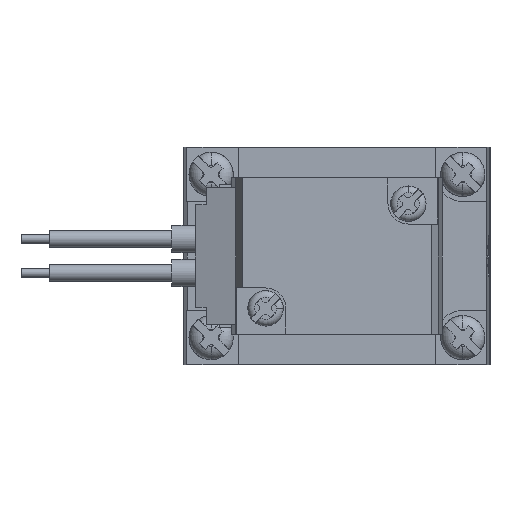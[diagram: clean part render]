
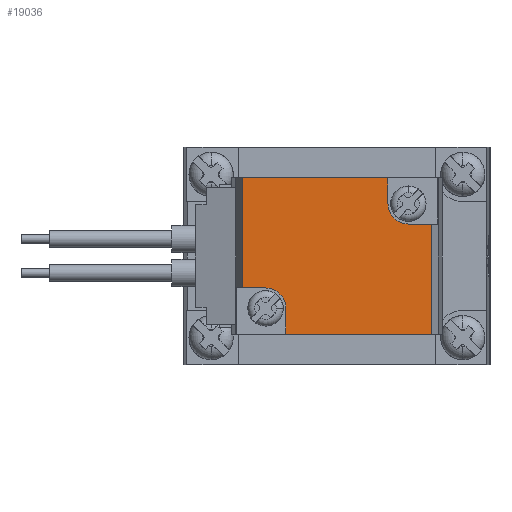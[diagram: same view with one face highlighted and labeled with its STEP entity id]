
A CAD part, left-side view. The second image highlights one B-rep face of the part: STEP entity #19036.
In plain terms, the highlighted planar face has unit normal (-1, 0, 0).
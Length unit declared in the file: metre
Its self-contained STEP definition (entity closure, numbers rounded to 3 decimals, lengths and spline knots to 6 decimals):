
#909 = CARTESIAN_POINT ( 'NONE',  ( -0.1123, 0.015, 0.0115 ) ) ;
#1621 = EDGE_CURVE ( 'NONE', #22632, #14167, #28119, .T. ) ;
#1682 = ORIENTED_EDGE ( 'NONE', *, *, #16102, .T. ) ;
#3002 = LINE ( 'NONE', #17341, #20298 ) ;
#3036 = EDGE_LOOP ( 'NONE', ( #6251, #9263, #23673, #1682, #15383, #20443, #22759, #8796, #22842, #17624 ) ) ;
#3074 = EDGE_CURVE ( 'NONE', #14167, #7952, #13521, .T. ) ;
#4278 = CARTESIAN_POINT ( 'NONE',  ( -0.1123, 0.012, 0.0047 ) ) ;
#4595 = DIRECTION ( 'NONE',  ( 0., -1., 0. ) ) ;
#4835 = DIRECTION ( 'NONE',  ( 1., 0., 0. ) ) ;
#4872 = CARTESIAN_POINT ( 'NONE',  ( -0.1123, 0.015, 0.0096 ) ) ;
#5532 = FACE_OUTER_BOUND ( 'NONE', #3036, .T. ) ;
#6036 = CARTESIAN_POINT ( 'NONE',  ( -0.1123, 0.008598, 0. ) ) ;
#6040 = LINE ( 'NONE', #12709, #6759 ) ;
#6137 = CARTESIAN_POINT ( 'NONE',  ( -0.1123, 0.022499, 0.0047 ) ) ;
#6251 = ORIENTED_EDGE ( 'NONE', *, *, #9624, .T. ) ;
#6292 = AXIS2_PLACEMENT_3D ( 'NONE', #18364, #4835, #20634 ) ;
#6759 = VECTOR ( 'NONE', #28480, 1. ) ;
#7511 = LINE ( 'NONE', #26142, #18091 ) ;
#7632 = VECTOR ( 'NONE', #4595, 1. ) ;
#7952 = VERTEX_POINT ( 'NONE', #14506 ) ;
#8342 = DIRECTION ( 'NONE',  ( 0., 0., 1. ) ) ;
#8408 = CARTESIAN_POINT ( 'NONE',  ( -0.1123, 0.0364, 0.0115 ) ) ;
#8496 = VECTOR ( 'NONE', #18716, 1. ) ;
#8796 = ORIENTED_EDGE ( 'NONE', *, *, #25988, .F. ) ;
#9178 = LINE ( 'NONE', #9733, #8496 ) ;
#9263 = ORIENTED_EDGE ( 'NONE', *, *, #10450, .T. ) ;
#9506 = VERTEX_POINT ( 'NONE', #13204 ) ;
#9624 = EDGE_CURVE ( 'NONE', #15174, #26702, #13623, .T. ) ;
#9733 = CARTESIAN_POINT ( 'NONE',  ( -0.1123, 0.022499, -0.0115 ) ) ;
#10450 = EDGE_CURVE ( 'NONE', #26702, #9506, #19239, .T. ) ;
#10630 = CARTESIAN_POINT ( 'NONE',  ( -0.1123, 0.008598, 0.0047 ) ) ;
#11181 = VECTOR ( 'NONE', #8342, 1. ) ;
#11696 = VECTOR ( 'NONE', #18407, 1. ) ;
#11905 = LINE ( 'NONE', #6036, #11181 ) ;
#11919 = CARTESIAN_POINT ( 'NONE',  ( -0.1123, 0.033, -0.0077 ) ) ;
#12645 = DIRECTION ( 'NONE',  ( 0., 0., -1. ) ) ;
#12709 = CARTESIAN_POINT ( 'NONE',  ( -0.1123, 0.0225, 0.0115 ) ) ;
#12814 = PLANE ( 'NONE',  #16568 ) ;
#13204 = CARTESIAN_POINT ( 'NONE',  ( -0.1123, 0.03, -0.0077 ) ) ;
#13521 = CIRCLE ( 'NONE', #6292, 0.003 ) ;
#13623 = LINE ( 'NONE', #15780, #7632 ) ;
#14167 = VERTEX_POINT ( 'NONE', #4278 ) ;
#14189 = DIRECTION ( 'NONE',  ( 0., -1., 0. ) ) ;
#14506 = CARTESIAN_POINT ( 'NONE',  ( -0.1123, 0.015, 0.0077 ) ) ;
#15085 = DIRECTION ( 'NONE',  ( 0., 1., 0. ) ) ;
#15174 = VERTEX_POINT ( 'NONE', #17054 ) ;
#15383 = ORIENTED_EDGE ( 'NONE', *, *, #21473, .T. ) ;
#15780 = CARTESIAN_POINT ( 'NONE',  ( -0.1123, 0.022499, -0.0047 ) ) ;
#16102 = EDGE_CURVE ( 'NONE', #17720, #16886, #9178, .T. ) ;
#16568 = AXIS2_PLACEMENT_3D ( 'NONE', #19521, #28592, #15085 ) ;
#16704 = CARTESIAN_POINT ( 'NONE',  ( -0.1123, 0.033, -0.0047 ) ) ;
#16846 = VECTOR ( 'NONE', #19694, 1. ) ;
#16886 = VERTEX_POINT ( 'NONE', #25354 ) ;
#17054 = CARTESIAN_POINT ( 'NONE',  ( -0.1123, 0.0364, -0.0047 ) ) ;
#17341 = CARTESIAN_POINT ( 'NONE',  ( -0.1123, 0.03, 0. ) ) ;
#17624 = ORIENTED_EDGE ( 'NONE', *, *, #25158, .T. ) ;
#17720 = VERTEX_POINT ( 'NONE', #26086 ) ;
#18091 = VECTOR ( 'NONE', #12645, 1. ) ;
#18364 = CARTESIAN_POINT ( 'NONE',  ( -0.1123, 0.012, 0.0077 ) ) ;
#18407 = DIRECTION ( 'NONE',  ( 0., 0., -1. ) ) ;
#18716 = DIRECTION ( 'NONE',  ( 0., -1., 0. ) ) ;
#19036 = ADVANCED_FACE ( 'NONE', ( #5532 ), #12814, .T. ) ;
#19239 = CIRCLE ( 'NONE', #21690, 0.003 ) ;
#19521 = CARTESIAN_POINT ( 'NONE',  ( -0.1123, 0.008598, 0.0115 ) ) ;
#19622 = DIRECTION ( 'NONE',  ( 0., 0., -1. ) ) ;
#19694 = DIRECTION ( 'NONE',  ( 0., 1., 0. ) ) ;
#20298 = VECTOR ( 'NONE', #19622, 1. ) ;
#20443 = ORIENTED_EDGE ( 'NONE', *, *, #1621, .T. ) ;
#20634 = DIRECTION ( 'NONE',  ( 0., -1., 0. ) ) ;
#21473 = EDGE_CURVE ( 'NONE', #16886, #22632, #11905, .T. ) ;
#21690 = AXIS2_PLACEMENT_3D ( 'NONE', #11919, #27684, #14189 ) ;
#21825 = VERTEX_POINT ( 'NONE', #909 ) ;
#22281 = LINE ( 'NONE', #4872, #11696 ) ;
#22596 = EDGE_CURVE ( 'NONE', #9506, #17720, #3002, .T. ) ;
#22632 = VERTEX_POINT ( 'NONE', #10630 ) ;
#22759 = ORIENTED_EDGE ( 'NONE', *, *, #3074, .T. ) ;
#22842 = ORIENTED_EDGE ( 'NONE', *, *, #25651, .F. ) ;
#23487 = VERTEX_POINT ( 'NONE', #8408 ) ;
#23673 = ORIENTED_EDGE ( 'NONE', *, *, #22596, .T. ) ;
#25158 = EDGE_CURVE ( 'NONE', #23487, #15174, #7511, .T. ) ;
#25354 = CARTESIAN_POINT ( 'NONE',  ( -0.1123, 0.008598, -0.0115 ) ) ;
#25651 = EDGE_CURVE ( 'NONE', #23487, #21825, #6040, .T. ) ;
#25988 = EDGE_CURVE ( 'NONE', #21825, #7952, #22281, .T. ) ;
#26086 = CARTESIAN_POINT ( 'NONE',  ( -0.1123, 0.03, -0.0115 ) ) ;
#26142 = CARTESIAN_POINT ( 'NONE',  ( -0.1123, 0.0364, 0. ) ) ;
#26702 = VERTEX_POINT ( 'NONE', #16704 ) ;
#27684 = DIRECTION ( 'NONE',  ( 1., 0., 0. ) ) ;
#28119 = LINE ( 'NONE', #6137, #16846 ) ;
#28480 = DIRECTION ( 'NONE',  ( 0., -1., 0. ) ) ;
#28592 = DIRECTION ( 'NONE',  ( -1., 0., 0. ) ) ;
